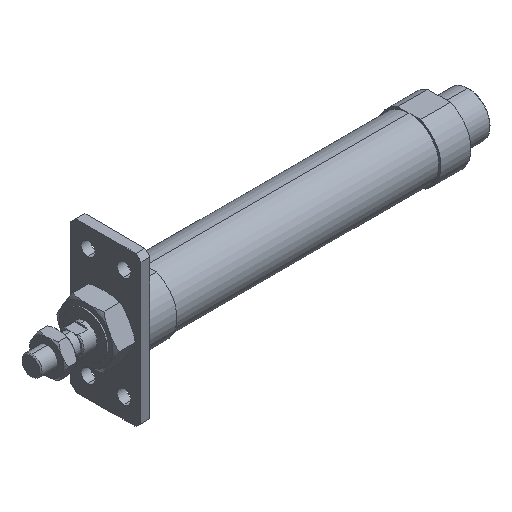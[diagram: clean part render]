
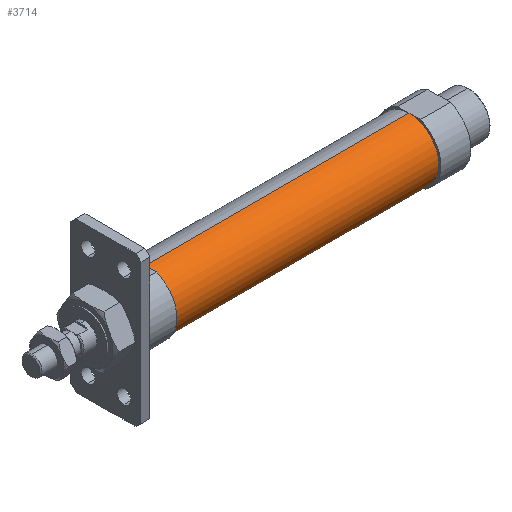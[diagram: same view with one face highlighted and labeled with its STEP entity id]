
A CAD part, isometric view. The second image highlights one B-rep face of the part: STEP entity #3714.
In plain terms, the highlighted cylindrical face has radius 15 mm (diameter 30 mm), a partial arc.
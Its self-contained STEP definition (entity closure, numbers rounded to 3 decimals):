
#68 = CIRCLE ( 'NONE', #1900, 15. ) ;
#360 = DIRECTION ( 'NONE',  ( 0., 0., 1. ) ) ;
#409 = LINE ( 'NONE', #1499, #3827 ) ;
#538 = CIRCLE ( 'NONE', #3269, 15. ) ;
#623 = EDGE_LOOP ( 'NONE', ( #3943, #1786, #2786, #856 ) ) ;
#653 = DIRECTION ( 'NONE',  ( -1., 0., 0. ) ) ;
#856 = ORIENTED_EDGE ( 'NONE', *, *, #3323, .F. ) ;
#936 = CARTESIAN_POINT ( 'NONE',  ( 57., 0., -15. ) ) ;
#938 = DIRECTION ( 'NONE',  ( -1., 0., 0. ) ) ;
#1012 = CYLINDRICAL_SURFACE ( 'NONE', #3853, 15. ) ;
#1038 = DIRECTION ( 'NONE',  ( 0., 0., 1. ) ) ;
#1154 = VERTEX_POINT ( 'NONE', #936 ) ;
#1246 = CARTESIAN_POINT ( 'NONE',  ( 57., 0., 0. ) ) ;
#1499 = CARTESIAN_POINT ( 'NONE',  ( -6.469, 0., -15. ) ) ;
#1503 = DIRECTION ( 'NONE',  ( 0., 0., 1. ) ) ;
#1786 = ORIENTED_EDGE ( 'NONE', *, *, #3012, .T. ) ;
#1900 = AXIS2_PLACEMENT_3D ( 'NONE', #3894, #2664, #1038 ) ;
#2108 = FACE_OUTER_BOUND ( 'NONE', #623, .T. ) ;
#2123 = EDGE_CURVE ( 'NONE', #3739, #2852, #3281, .T. ) ;
#2631 = CARTESIAN_POINT ( 'NONE',  ( -6.469, 0., 0. ) ) ;
#2664 = DIRECTION ( 'NONE',  ( -1., 0., 0. ) ) ;
#2786 = ORIENTED_EDGE ( 'NONE', *, *, #2123, .T. ) ;
#2852 = VERTEX_POINT ( 'NONE', #3832 ) ;
#2868 = VERTEX_POINT ( 'NONE', #3177 ) ;
#2886 = VECTOR ( 'NONE', #938, 1000. ) ;
#2896 = CARTESIAN_POINT ( 'NONE',  ( 189., 0., 15. ) ) ;
#3012 = EDGE_CURVE ( 'NONE', #2868, #3739, #68, .T. ) ;
#3093 = CARTESIAN_POINT ( 'NONE',  ( -6.469, 0., 15. ) ) ;
#3155 = EDGE_CURVE ( 'NONE', #2868, #1154, #409, .T. ) ;
#3177 = CARTESIAN_POINT ( 'NONE',  ( 189., 0., -15. ) ) ;
#3269 = AXIS2_PLACEMENT_3D ( 'NONE', #1246, #3458, #1503 ) ;
#3281 = LINE ( 'NONE', #3093, #2886 ) ;
#3323 = EDGE_CURVE ( 'NONE', #1154, #2852, #538, .T. ) ;
#3355 = DIRECTION ( 'NONE',  ( -1., 0., 0. ) ) ;
#3458 = DIRECTION ( 'NONE',  ( -1., 0., 0. ) ) ;
#3714 = ADVANCED_FACE ( 'NONE', ( #2108 ), #1012, .T. ) ;
#3739 = VERTEX_POINT ( 'NONE', #2896 ) ;
#3827 = VECTOR ( 'NONE', #653, 1000. ) ;
#3832 = CARTESIAN_POINT ( 'NONE',  ( 57., 0., 15. ) ) ;
#3853 = AXIS2_PLACEMENT_3D ( 'NONE', #2631, #3355, #360 ) ;
#3894 = CARTESIAN_POINT ( 'NONE',  ( 189., 0., 0. ) ) ;
#3943 = ORIENTED_EDGE ( 'NONE', *, *, #3155, .F. ) ;
